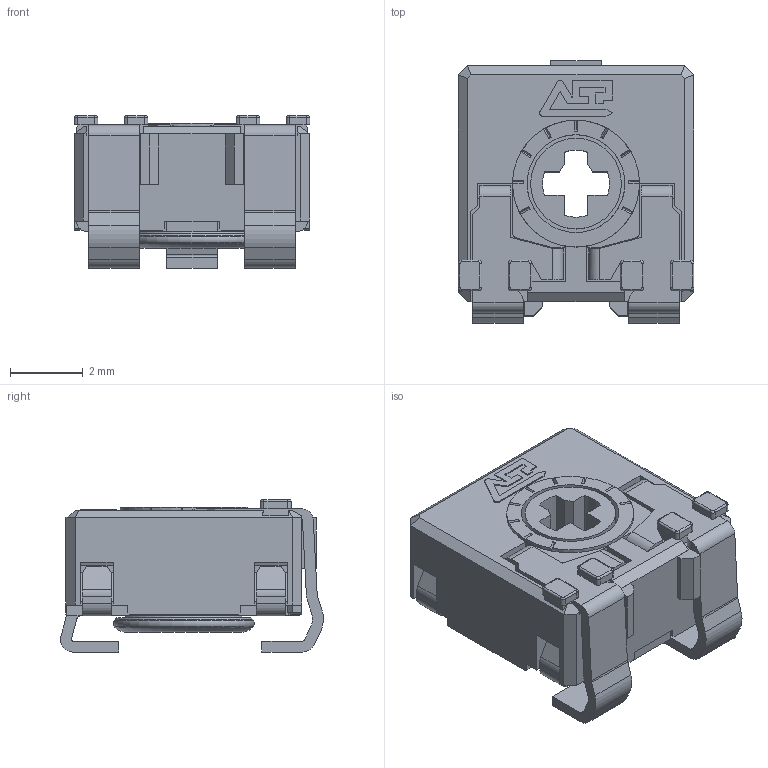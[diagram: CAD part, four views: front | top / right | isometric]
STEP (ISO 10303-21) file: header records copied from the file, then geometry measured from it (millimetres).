
FILE_DESCRIPTION(/* description */ (''),/* implementation_level */ '2;1');
FILE_NAME(/* name */ '\\SERVERACP\intercambio\Ignacio Santa Cecilia\Nueva WEB 2025\CA6\CA6XVESMD.stp',/* time_stamp */ '2025-06-05T12:25:19+02:00',/* author */ ('CEM'),/* organization */ (''),/* preprocessor_version */ 'ST-DEVELOPER v17',/* originating_system */ 'Autodesk Inventor 2018',/* authorisation */ '');
FILE_SCHEMA (('AUTOMOTIVE_DESIGN { 1 0 10303 214 3 1 1 }'));
Length unit declared in the file: millimetre
Products named in the file (1): CARCASA CA6
Bounding box: 6.5 x 7.25 x 4.2 mm (x, y, z)
Volume: 90.8 mm3; surface area: 389.3 mm2
Topology: 1 solids, 1 shells, 536 faces, 1509 edges, 971 vertices
Faces by surface type: plane 401, cylinder 96, cone 17, bspline 16, torus 6
Full cylindrical faces by diameter (mm): 2.5 x1, 2.7 x1, 2.9 x1, 3.1 x1, 3.5 x1
Entity records: 17400 total; most frequent: CARTESIAN_POINT 3201, ORIENTED_EDGE 3018, DIRECTION 2825, EDGE_CURVE 1509, LINE 1179, VECTOR 1179, VERTEX_POINT 971, AXIS2_PLACEMENT_3D 823
